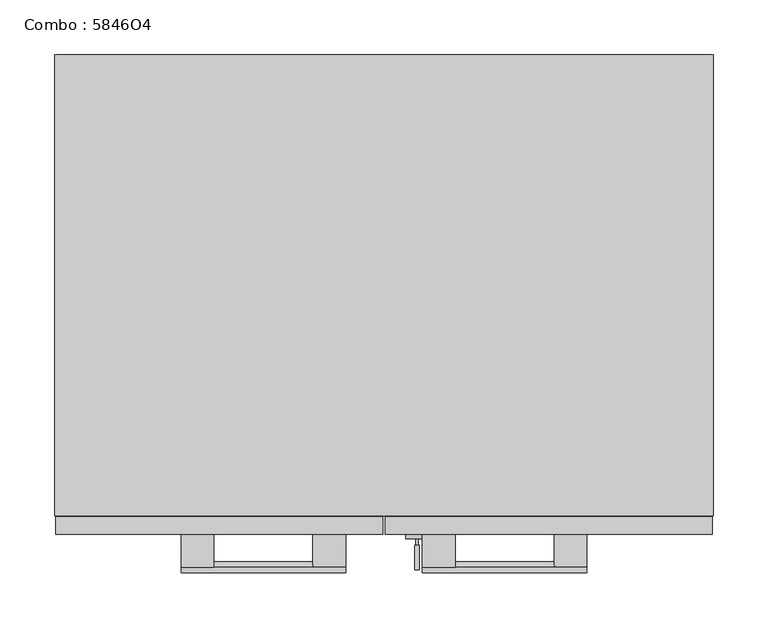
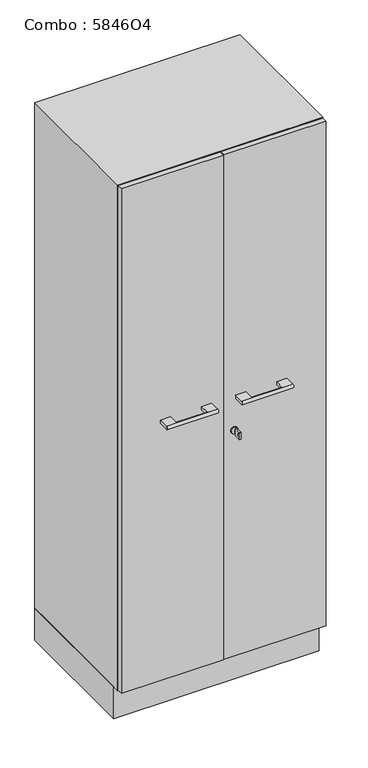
"""IFC4 building model written with IfcOpenShell, lengths in millimetres: furniture geometry, Combo : 5846O4."""

from ifc_helpers import new_model, si_unit, point, frame, frame_2d, origin, origin_with_axes, place, context, project, spatial, polyline, circle_curve, trimmed, segment, composite_curve, outline, extrude, source, transform, mapped, element, save
from ifc_brep_helpers import plane_surface, cylinder_surface, advanced_brep


def combo_5846o4_faa56c90(model_context):
    return source(origin(), model_context, "Body", "SolidModel", [
        extrude(outline(polyline([(-300.0, -400.0), (-300.0, 0.0), (300.0, 0.0), (300.0, -400.0), (-300.0, -400.0)])), origin_with_axes(), (0.0, 0.0, 1.0), 100.0),
        extrude(outline(composite_curve([segment(trimmed(circle_curve(frame_2d((800.0, 30.0)), 10.0), [point((800.0, 20.0))], [point((800.0, 40.0))], False, "CARTESIAN"), True, "CONTINUOUS"), segment(trimmed(circle_curve(frame_2d((800.0, 30.0)), 10.0), [point((800.0, 40.0))], [point((800.0, 20.0))], False, "CARTESIAN"), True, "CONTINUOUS")], self_intersect=False)), frame((0.0, -441.0, 0.0), z_axis=(0.0, 1.0, 0.0), x_axis=(0.0, 0.0, 1.0)), (0.0, 0.0, 1.0), 4.0),
        extrude(outline(polyline([(-469.0, 789.014113), (-469.0, 811.0), (-447.0, 811.0), (-447.0, 789.014113), (-469.0, 789.014113)]), holes=[composite_curve([segment(trimmed(circle_curve(frame_2d((-462.75, 800.0070565)), 3.2230706), [point((-462.75, 803.2301271))], [point((-462.75, 796.7839859))], True, "CARTESIAN"), True, "CONTINUOUS"), segment(trimmed(circle_curve(frame_2d((-462.75, 800.0070565)), 3.2230706), [point((-462.75, 796.7839859))], [point((-462.75, 803.2301271))], True, "CARTESIAN"), True, "CONTINUOUS")], self_intersect=False)]), frame((28.0, 0.0, 0.0), z_axis=(1.0, 0.0, 0.0), x_axis=(0.0, 1.0, 0.0)), (0.0, 0.0, 1.0), 4.0416064),
        extrude(outline(polyline([(31.0416064, -447.0), (29.0, -447.0), (29.0, -441.0), (31.0416064, -441.0), (31.0416064, -447.0)])), frame((0.0, 0.0, 796.014113), z_axis=(0.0, 0.0, 1.0), x_axis=(1.0, 0.0, 0.0)), (0.0, 0.0, 1.0), 7.985887),
        advanced_brep(
        [(-185.0, -467.0, 905.0), (-185.0, -437.0, 905.0), (-185.0, -437.0, 895.0), (-185.0, -467.0, 895.0), (-155.0, -467.0, 895.0), (-155.0, -437.0, 895.0), (-155.0, -437.0, 905.0), (-155.0, -467.0, 905.0), (-35.0, -467.0, 905.0), (-35.0, -467.0, 895.0), (-35.0, -437.0, 895.0), (-35.0, -437.0, 905.0), (-65.0, -467.0, 905.0), (-65.0, -467.0, 895.0), (-65.0, -437.0, 905.0), (-65.0, -437.0, 895.0)],
        [
            (0, 1),
            (1, 2),
            (2, 3),
            (3, 0, circle_curve(frame((-185.0, -467.0, 900.0), z_axis=(-1.0, 0.0, 0.0), x_axis=(0.0, 0.0, -1.0)), 5.0)),
            (4, 5),
            (5, 6),
            (6, 7),
            (7, 4, circle_curve(frame((-155.0, -467.0, 900.0), z_axis=(-1.0, 0.0, 0.0), x_axis=(0.0, 0.0, -1.0)), 5.0)),
            (2, 5),
            (4, 3),
            (1, 6),
            (0, 7),
            (8, 9, circle_curve(frame((-35.0, -467.0, 900.0), z_axis=(1.0, 0.0, 0.0), x_axis=(0.0, 0.0, -1.0)), 5.0)),
            (9, 10),
            (10, 11),
            (11, 8),
            (8, 12),
            (12, 7),
            (4, 13),
            (13, 9),
            (12, 13, circle_curve(frame((-65.0, -467.0, 900.0), z_axis=(-1.0, 0.0, 0.0), x_axis=(0.0, 0.0, -1.0)), 5.0)),
            (12, 14),
            (14, 15),
            (15, 13),
            (15, 10),
            (14, 11),
        ],
        [
            plane_surface(frame((-185.0, -467.0, 906.0), z_axis=(-1.0, 0.0, 0.0), x_axis=(0.0, 0.0, 1.0))),
            plane_surface(frame((-155.0, -467.0, 906.0), z_axis=(1.0, 0.0, 0.0), x_axis=(0.0, 0.0, -1.0))),
            plane_surface(frame((-185.0, -437.0, 895.0), z_axis=(0.0, 0.0, -1.0), x_axis=(1.0, 0.0, 0.0))),
            plane_surface(frame((-185.0, -437.0, 905.0), z_axis=(0.0, 1.0, 0.0), x_axis=(1.0, 0.0, 0.0))),
            plane_surface(frame((-185.0, -467.0, 905.0), z_axis=(0.0, 0.0, 1.0), x_axis=(1.0, 0.0, 0.0))),
            plane_surface(frame((-35.0, -467.0, 895.0), z_axis=(1.0, 0.0, 0.0), x_axis=(0.0, 1.0, 0.0))),
            cylinder_surface(frame((-185.0, -467.0, 900.0), z_axis=(1.0, 0.0, 0.0), x_axis=(0.0, 0.0, -1.0)), 5.0),
            plane_surface(frame((-65.0, -555.7415577, 895.0), z_axis=(-1.0, 0.0, 0.0), x_axis=(0.0, -1.0, 0.0))),
            plane_surface(frame((-35.0, -467.0, 895.0), z_axis=(0.0, 0.0, -1.0), x_axis=(-1.0, 0.0, 0.0))),
            plane_surface(frame((-35.0, -437.0, 895.0), z_axis=(0.0, 1.0, 0.0), x_axis=(-1.0, 0.0, 0.0))),
            plane_surface(frame((-35.0, -437.0, 905.0), z_axis=(0.0, 0.0, 1.0), x_axis=(-1.0, 0.0, 0.0))),
        ],
        [
            (0, [[1, 2, 3, 4]]),
            (1, [[5, 6, 7, 8]]),
            (2, [[-3, 9, -5, 10]]),
            (3, [[-2, 11, -6, -9]]),
            (4, [[-1, 12, -7, -11]]),
            (5, [[13, 14, 15, 16]]),
            (6, [[-13, 17, 18, -12, -4, -10, 19, 20]]),
            (6, [[-8, -18, 21, -19]]),
            (7, [[22, 23, 24, -21]]),
            (8, [[-14, -20, -24, 25]]),
            (9, [[-15, -25, -23, 26]]),
            (10, [[-16, -26, -22, -17]]),
        ],
    ),
        advanced_brep(
        [(35.0, -467.0, 905.0), (35.0, -437.0, 905.0), (35.0, -437.0, 895.0), (35.0, -467.0, 895.0), (65.0, -467.0, 895.0), (65.0, -437.0, 895.0), (65.0, -437.0, 905.0), (65.0, -467.0, 905.0), (185.0, -467.0, 905.0), (185.0, -467.0, 895.0), (185.0, -437.0, 895.0), (185.0, -437.0, 905.0), (155.0, -467.0, 905.0), (155.0, -467.0, 895.0), (155.0, -437.0, 905.0), (155.0, -437.0, 895.0)],
        [
            (0, 1),
            (1, 2),
            (2, 3),
            (3, 0, circle_curve(frame((35.0, -467.0, 900.0), z_axis=(-1.0, 0.0, 0.0), x_axis=(0.0, 0.0, -1.0)), 5.0)),
            (4, 5),
            (5, 6),
            (6, 7),
            (7, 4, circle_curve(frame((65.0, -467.0, 900.0), z_axis=(-1.0, 0.0, 0.0), x_axis=(0.0, 0.0, -1.0)), 5.0)),
            (2, 5),
            (4, 3),
            (1, 6),
            (0, 7),
            (8, 9, circle_curve(frame((185.0, -467.0, 900.0), z_axis=(1.0, 0.0, 0.0), x_axis=(0.0, 0.0, -1.0)), 5.0)),
            (9, 10),
            (10, 11),
            (11, 8),
            (8, 12),
            (12, 7),
            (4, 13),
            (13, 9),
            (12, 13, circle_curve(frame((155.0, -467.0, 900.0), z_axis=(-1.0, 0.0, 0.0), x_axis=(0.0, 0.0, -1.0)), 5.0)),
            (12, 14),
            (14, 15),
            (15, 13),
            (15, 10),
            (14, 11),
        ],
        [
            plane_surface(frame((35.0, -467.0, 906.0), z_axis=(-1.0, 0.0, 0.0), x_axis=(0.0, 0.0, 1.0))),
            plane_surface(frame((65.0, -467.0, 906.0), z_axis=(1.0, 0.0, 0.0), x_axis=(0.0, 0.0, -1.0))),
            plane_surface(frame((35.0, -437.0, 895.0), z_axis=(0.0, 0.0, -1.0), x_axis=(1.0, 0.0, 0.0))),
            plane_surface(frame((35.0, -437.0, 905.0), z_axis=(0.0, 1.0, 0.0), x_axis=(1.0, 0.0, 0.0))),
            plane_surface(frame((35.0, -467.0, 905.0), z_axis=(0.0, 0.0, 1.0), x_axis=(1.0, 0.0, 0.0))),
            plane_surface(frame((185.0, -467.0, 895.0), z_axis=(1.0, 0.0, 0.0), x_axis=(0.0, 1.0, 0.0))),
            cylinder_surface(frame((35.0, -467.0, 900.0), z_axis=(1.0, 0.0, 0.0), x_axis=(0.0, 0.0, -1.0)), 5.0),
            plane_surface(frame((155.0, -555.7415577, 895.0), z_axis=(-1.0, 0.0, 0.0), x_axis=(0.0, -1.0, 0.0))),
            plane_surface(frame((185.0, -467.0, 895.0), z_axis=(0.0, 0.0, -1.0), x_axis=(-1.0, 0.0, 0.0))),
            plane_surface(frame((185.0, -437.0, 895.0), z_axis=(0.0, 1.0, 0.0), x_axis=(-1.0, 0.0, 0.0))),
            plane_surface(frame((185.0, -437.0, 905.0), z_axis=(0.0, 0.0, 1.0), x_axis=(-1.0, 0.0, 0.0))),
        ],
        [
            (0, [[1, 2, 3, 4]]),
            (1, [[5, 6, 7, 8]]),
            (2, [[-3, 9, -5, 10]]),
            (3, [[-2, 11, -6, -9]]),
            (4, [[-1, 12, -7, -11]]),
            (5, [[13, 14, 15, 16]]),
            (6, [[-13, 17, 18, -12, -4, -10, 19, 20]]),
            (6, [[-8, -18, 21, -19]]),
            (7, [[22, 23, 24, -21]]),
            (8, [[-14, -20, -24, 25]]),
            (9, [[-15, -25, -23, 26]]),
            (10, [[-16, -26, -22, -17]]),
        ],
    ),
        extrude(outline(polyline([(-1.0, -437.0), (-299.0, -437.0), (-299.0, -421.0), (-1.0, -421.0), (-1.0, -437.0)])), frame((0.0, 0.0, 101.0), z_axis=(0.0, 0.0, 1.0), x_axis=(1.0, 0.0, 0.0)), (0.0, 0.0, 1.0), 1558.0),
        extrude(outline(polyline([(299.0, -437.0), (1.0, -437.0), (1.0, -421.0), (299.0, -421.0), (299.0, -437.0)])), frame((0.0, 0.0, 101.0), z_axis=(0.0, 0.0, 1.0), x_axis=(1.0, 0.0, 0.0)), (0.0, 0.0, 1.0), 1558.0),
        extrude(outline(polyline([(300.0, 0.0), (300.0, -420.0), (-300.0, -420.0), (-300.0, 0.0), (300.0, 0.0)])), frame((0.0, 0.0, 100.0), z_axis=(0.0, 0.0, 1.0), x_axis=(1.0, 0.0, 0.0)), (0.0, 0.0, 1.0), 1560.0),
    ])


if __name__ == "__main__":
    model = new_model("IFC4")
    model_context = context("Model", 3, world=origin())
    ifc_project = project(units=[si_unit("LENGTHUNIT", "METRE", prefix="MILLI")], contexts=[model_context])
    site = spatial("IfcSite", under=ifc_project)
    building = spatial("IfcBuilding", under=site)
    placement = place(None, origin())
    combo_5846o4_shape = combo_5846o4_faa56c90(model_context)
    element("IfcFurniture", 1, ObjectType="Combo : 5846O4", at=placement, inside=building, context=model_context, shape_type="MappedRepresentation", body=[
        mapped(combo_5846o4_shape, transform((0.0, 0.0, 0.0), x_axis=(1.0, 0.0, 0.0), y_axis=(0.0, 1.0, 0.0), z_axis=(0.0, 0.0, 1.0))),
    ])
    save(model, "model.ifc")
